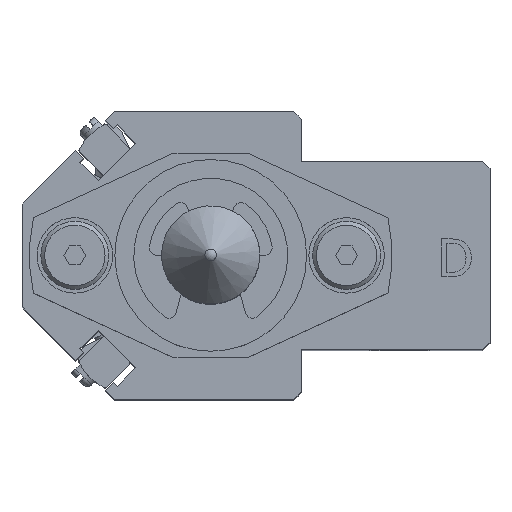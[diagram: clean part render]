
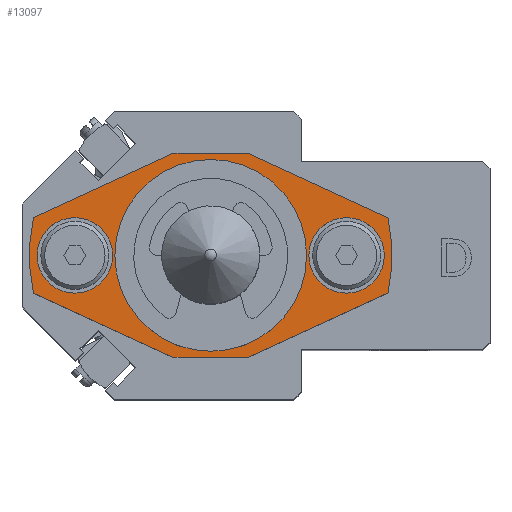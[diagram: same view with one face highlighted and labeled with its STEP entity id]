
A CAD part, top view. The second image highlights one B-rep face of the part: STEP entity #13097.
In plain terms, the highlighted planar face has unit normal (0, 0, 1).
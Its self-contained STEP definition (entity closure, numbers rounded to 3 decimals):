
#367=FACE_BOUND('',#4786,.T.);
#368=FACE_BOUND('',#4787,.T.);
#369=FACE_BOUND('',#4788,.T.);
#1546=LINE('',#21523,#2920);
#1553=LINE('',#21540,#2927);
#1554=LINE('',#21543,#2928);
#1555=LINE('',#21544,#2929);
#1556=LINE('',#21546,#2930);
#1557=LINE('',#21547,#2931);
#2920=VECTOR('',#17463,10.);
#2927=VECTOR('',#17478,10.);
#2928=VECTOR('',#17481,10.);
#2929=VECTOR('',#17482,10.);
#2930=VECTOR('',#17483,10.);
#2931=VECTOR('',#17484,10.);
#3394=CIRCLE('',#14362,10.5);
#3395=CIRCLE('',#14363,10.5);
#3402=CIRCLE('',#14374,24.);
#3404=CIRCLE('',#14377,24.);
#3407=CIRCLE('',#14384,5.);
#3408=CIRCLE('',#14385,5.);
#3409=CIRCLE('',#14386,5.);
#3410=CIRCLE('',#14387,5.);
#4091=FACE_OUTER_BOUND('',#4785,.T.);
#4785=EDGE_LOOP('',(#11012,#11013,#11014,#11015,#11016,#11017,#11018,#11019));
#4786=EDGE_LOOP('',(#11020,#11021));
#4787=EDGE_LOOP('',(#11022,#11023));
#4788=EDGE_LOOP('',(#11024,#11025));
#5965=VERTEX_POINT('',#21481);
#5966=VERTEX_POINT('',#21483);
#5974=VERTEX_POINT('',#21504);
#5975=VERTEX_POINT('',#21506);
#5978=VERTEX_POINT('',#21513);
#5979=VERTEX_POINT('',#21515);
#5981=VERTEX_POINT('',#21521);
#5987=VERTEX_POINT('',#21538);
#5988=VERTEX_POINT('',#21542);
#5989=VERTEX_POINT('',#21545);
#5990=VERTEX_POINT('',#21548);
#5991=VERTEX_POINT('',#21549);
#5992=VERTEX_POINT('',#21552);
#5993=VERTEX_POINT('',#21553);
#7700=EDGE_CURVE('',#5966,#5965,#3394,.T.);
#7701=EDGE_CURVE('',#5965,#5966,#3395,.T.);
#7710=EDGE_CURVE('',#5975,#5974,#3402,.T.);
#7714=EDGE_CURVE('',#5979,#5978,#3404,.T.);
#7718=EDGE_CURVE('',#5974,#5981,#1546,.T.);
#7727=EDGE_CURVE('',#5978,#5987,#1553,.T.);
#7728=EDGE_CURVE('',#5981,#5988,#1554,.T.);
#7729=EDGE_CURVE('',#5988,#5979,#1555,.T.);
#7730=EDGE_CURVE('',#5987,#5989,#1556,.T.);
#7731=EDGE_CURVE('',#5989,#5975,#1557,.T.);
#7732=EDGE_CURVE('',#5990,#5991,#3407,.T.);
#7733=EDGE_CURVE('',#5991,#5990,#3408,.T.);
#7734=EDGE_CURVE('',#5992,#5993,#3409,.T.);
#7735=EDGE_CURVE('',#5993,#5992,#3410,.T.);
#11012=ORIENTED_EDGE('',*,*,#7710,.T.);
#11013=ORIENTED_EDGE('',*,*,#7718,.T.);
#11014=ORIENTED_EDGE('',*,*,#7728,.T.);
#11015=ORIENTED_EDGE('',*,*,#7729,.T.);
#11016=ORIENTED_EDGE('',*,*,#7714,.T.);
#11017=ORIENTED_EDGE('',*,*,#7727,.T.);
#11018=ORIENTED_EDGE('',*,*,#7730,.T.);
#11019=ORIENTED_EDGE('',*,*,#7731,.T.);
#11020=ORIENTED_EDGE('',*,*,#7700,.T.);
#11021=ORIENTED_EDGE('',*,*,#7701,.T.);
#11022=ORIENTED_EDGE('',*,*,#7732,.T.);
#11023=ORIENTED_EDGE('',*,*,#7733,.T.);
#11024=ORIENTED_EDGE('',*,*,#7734,.T.);
#11025=ORIENTED_EDGE('',*,*,#7735,.T.);
#12299=PLANE('',#14383);
#13097=ADVANCED_FACE('',(#4091,#367,#368,#369),#12299,.T.);
#14362=AXIS2_PLACEMENT_3D('',#21484,#17422,#17423);
#14363=AXIS2_PLACEMENT_3D('',#21485,#17424,#17425);
#14374=AXIS2_PLACEMENT_3D('',#21507,#17448,#17449);
#14377=AXIS2_PLACEMENT_3D('',#21516,#17456,#17457);
#14383=AXIS2_PLACEMENT_3D('',#21541,#17479,#17480);
#14384=AXIS2_PLACEMENT_3D('',#21550,#17485,#17486);
#14385=AXIS2_PLACEMENT_3D('',#21551,#17487,#17488);
#14386=AXIS2_PLACEMENT_3D('',#21554,#17489,#17490);
#14387=AXIS2_PLACEMENT_3D('',#21555,#17491,#17492);
#17422=DIRECTION('center_axis',(0.,0.,-1.));
#17423=DIRECTION('ref_axis',(1.,0.,0.));
#17424=DIRECTION('center_axis',(0.,0.,-1.));
#17425=DIRECTION('ref_axis',(1.,0.,0.));
#17448=DIRECTION('center_axis',(0.,0.,1.));
#17449=DIRECTION('ref_axis',(0.978,-0.208,0.));
#17456=DIRECTION('center_axis',(0.,0.,1.));
#17457=DIRECTION('ref_axis',(-0.978,0.208,0.));
#17463=DIRECTION('',(0.908,-0.418,0.));
#17478=DIRECTION('',(-0.908,0.418,0.));
#17479=DIRECTION('center_axis',(0.,0.,1.));
#17480=DIRECTION('ref_axis',(1.,0.,0.));
#17481=DIRECTION('',(1.,0.,0.));
#17482=DIRECTION('',(0.908,0.418,0.));
#17483=DIRECTION('',(-1.,0.,0.));
#17484=DIRECTION('',(-0.908,-0.418,0.));
#17485=DIRECTION('center_axis',(0.,0.,-1.));
#17486=DIRECTION('ref_axis',(1.,0.,0.));
#17487=DIRECTION('center_axis',(0.,0.,-1.));
#17488=DIRECTION('ref_axis',(1.,0.,0.));
#17489=DIRECTION('center_axis',(0.,0.,-1.));
#17490=DIRECTION('ref_axis',(1.,0.,0.));
#17491=DIRECTION('center_axis',(0.,0.,-1.));
#17492=DIRECTION('ref_axis',(1.,0.,0.));
#21481=CARTESIAN_POINT('',(-10.5,0.,6.));
#21483=CARTESIAN_POINT('',(10.5,0.,6.));
#21484=CARTESIAN_POINT('Origin',(0.,0.,6.));
#21485=CARTESIAN_POINT('Origin',(0.,0.,6.));
#21504=CARTESIAN_POINT('',(-23.473,-5.001,6.));
#21506=CARTESIAN_POINT('',(-23.473,5.001,6.));
#21507=CARTESIAN_POINT('Origin',(0.,0.,6.));
#21513=CARTESIAN_POINT('',(23.473,5.001,6.));
#21515=CARTESIAN_POINT('',(23.473,-5.001,6.));
#21516=CARTESIAN_POINT('Origin',(0.,0.,6.));
#21521=CARTESIAN_POINT('',(-5.,-13.5,6.));
#21523=CARTESIAN_POINT('',(-15.7,-8.578,6.));
#21538=CARTESIAN_POINT('',(5.,13.5,6.));
#21540=CARTESIAN_POINT('',(15.7,8.578,6.));
#21541=CARTESIAN_POINT('Origin',(0.,0.,6.));
#21542=CARTESIAN_POINT('',(5.,-13.5,6.));
#21543=CARTESIAN_POINT('',(25.4,-13.5,6.));
#21544=CARTESIAN_POINT('',(15.7,-8.578,6.));
#21545=CARTESIAN_POINT('',(-5.,13.5,6.));
#21546=CARTESIAN_POINT('',(-25.4,13.5,6.));
#21547=CARTESIAN_POINT('',(-15.7,8.578,6.));
#21548=CARTESIAN_POINT('',(-13.,0.,6.));
#21549=CARTESIAN_POINT('',(-23.,0.,6.));
#21550=CARTESIAN_POINT('Origin',(-18.,0.,6.));
#21551=CARTESIAN_POINT('Origin',(-18.,0.,6.));
#21552=CARTESIAN_POINT('',(23.,0.,6.));
#21553=CARTESIAN_POINT('',(13.,0.,6.));
#21554=CARTESIAN_POINT('Origin',(18.,0.,6.));
#21555=CARTESIAN_POINT('Origin',(18.,0.,6.));
